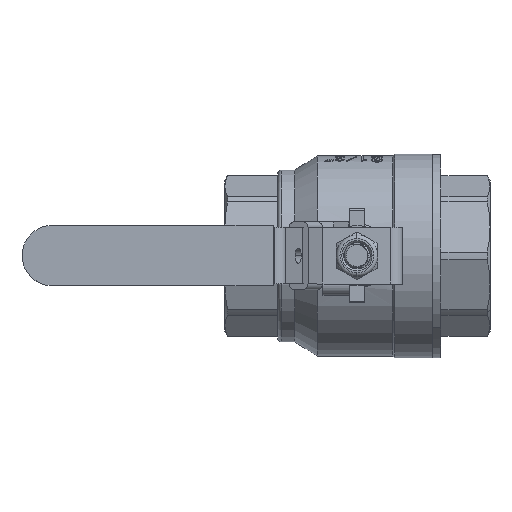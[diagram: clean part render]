
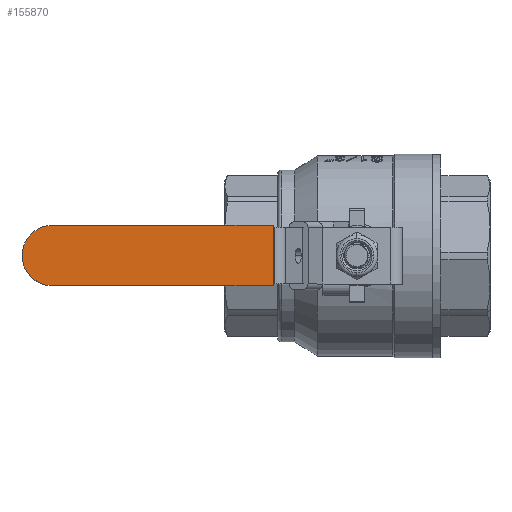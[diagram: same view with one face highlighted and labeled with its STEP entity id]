
A CAD part, top view. The second image highlights one B-rep face of the part: STEP entity #155870.
In plain terms, the highlighted planar face has unit normal (0, 0, 1).
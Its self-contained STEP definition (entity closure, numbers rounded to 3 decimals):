
#153046 = PLANE('',#153047);
#153047 = AXIS2_PLACEMENT_3D('',#153048,#153049,#153050);
#153048 = CARTESIAN_POINT('',(-44.404,16.,126.3));
#153049 = DIRECTION('',(-1.,0.,0.));
#153050 = DIRECTION('',(0.,0.,1.));
#155646 = VERTEX_POINT('',#155647);
#155647 = CARTESIAN_POINT('',(-44.404,-16.,126.3));
#155663 = PLANE('',#155664);
#155664 = AXIS2_PLACEMENT_3D('',#155665,#155666,#155667);
#155665 = CARTESIAN_POINT('',(0.,-16.,85.3)
  );
#155666 = DIRECTION('',(0.,1.,0.));
#155667 = DIRECTION('',(-1.,0.,0.));
#155704 = VERTEX_POINT('',#155705);
#155705 = CARTESIAN_POINT('',(-44.404,16.,126.3));
#155719 = PLANE('',#155720);
#155720 = AXIS2_PLACEMENT_3D('',#155721,#155722,#155723);
#155721 = CARTESIAN_POINT('',(0.,16.,85.3));
#155722 = DIRECTION('',(0.,1.,0.));
#155723 = DIRECTION('',(-1.,0.,0.));
#155731 = EDGE_CURVE('',#155704,#155646,#155732,.T.);
#155732 = SURFACE_CURVE('',#155733,(#155737,#155744),.PCURVE_S1.);
#155733 = LINE('',#155734,#155735);
#155734 = CARTESIAN_POINT('',(-44.404,16.,126.3));
#155735 = VECTOR('',#155736,1.);
#155736 = DIRECTION('',(0.,-1.,0.));
#155737 = PCURVE('',#153046,#155738);
#155738 = DEFINITIONAL_REPRESENTATION('',(#155739),#155743);
#155739 = LINE('',#155740,#155741);
#155740 = CARTESIAN_POINT('',(0.,0.));
#155741 = VECTOR('',#155742,1.);
#155742 = DIRECTION('',(0.,-1.));
#155743 = ( GEOMETRIC_REPRESENTATION_CONTEXT(2) 
PARAMETRIC_REPRESENTATION_CONTEXT() REPRESENTATION_CONTEXT('2D SPACE',''
  ) );
#155744 = PCURVE('',#155745,#155750);
#155745 = PLANE('',#155746);
#155746 = AXIS2_PLACEMENT_3D('',#155747,#155748,#155749);
#155747 = CARTESIAN_POINT('',(-44.404,16.,126.3));
#155748 = DIRECTION('',(0.,0.,-1.));
#155749 = DIRECTION('',(0.,-1.,0.));
#155750 = DEFINITIONAL_REPRESENTATION('',(#155751),#155755);
#155751 = LINE('',#155752,#155753);
#155752 = CARTESIAN_POINT('',(-0.,0.));
#155753 = VECTOR('',#155754,1.);
#155754 = DIRECTION('',(1.,0.));
#155755 = ( GEOMETRIC_REPRESENTATION_CONTEXT(2) 
PARAMETRIC_REPRESENTATION_CONTEXT() REPRESENTATION_CONTEXT('2D SPACE',''
  ) );
#155804 = CYLINDRICAL_SURFACE('',#155805,16.);
#155805 = AXIS2_PLACEMENT_3D('',#155806,#155807,#155808);
#155806 = CARTESIAN_POINT('',(-161.5,0.,126.3)
  );
#155807 = DIRECTION('',(0.,0.,1.));
#155808 = DIRECTION('',(0.,1.,0.));
#155837 = CYLINDRICAL_SURFACE('',#155838,16.);
#155838 = AXIS2_PLACEMENT_3D('',#155839,#155840,#155841);
#155839 = CARTESIAN_POINT('',(-161.5,0.,85.3)
  );
#155840 = DIRECTION('',(0.,0.,-1.));
#155841 = DIRECTION('',(0.,-1.,0.));
#155870 = ADVANCED_FACE('',(#155871),#155745,.F.);
#155871 = FACE_BOUND('',#155872,.T.);
#155872 = EDGE_LOOP('',(#155873,#155903,#155931,#155952,#155953));
#155873 = ORIENTED_EDGE('',*,*,#155874,.T.);
#155874 = EDGE_CURVE('',#155875,#155877,#155879,.T.);
#155875 = VERTEX_POINT('',#155876);
#155876 = CARTESIAN_POINT('',(-161.5,16.,126.3));
#155877 = VERTEX_POINT('',#155878);
#155878 = CARTESIAN_POINT('',(-177.5,0.,126.3)
  );
#155879 = SURFACE_CURVE('',#155880,(#155885,#155896),.PCURVE_S1.);
#155880 = CIRCLE('',#155881,16.);
#155881 = AXIS2_PLACEMENT_3D('',#155882,#155883,#155884);
#155882 = CARTESIAN_POINT('',(-161.5,0.,126.3)
  );
#155883 = DIRECTION('',(0.,0.,1.));
#155884 = DIRECTION('',(0.,-1.,0.));
#155885 = PCURVE('',#155745,#155886);
#155886 = DEFINITIONAL_REPRESENTATION('',(#155887),#155895);
#155887 = ( BOUNDED_CURVE() B_SPLINE_CURVE(2,(#155888,#155889,#155890,
    #155891,#155892,#155893,#155894),.UNSPECIFIED.,.T.,.F.) 
B_SPLINE_CURVE_WITH_KNOTS((1,2,2,2,2,1),(-2.094,0.,
    2.094,4.189,6.283,8.378),
.UNSPECIFIED.) CURVE() GEOMETRIC_REPRESENTATION_ITEM() 
RATIONAL_B_SPLINE_CURVE((1.,0.5,1.,0.5,1.,0.5,1.)) REPRESENTATION_ITEM(
  '') );
#155888 = CARTESIAN_POINT('',(32.,117.096));
#155889 = CARTESIAN_POINT('',(32.,89.383));
#155890 = CARTESIAN_POINT('',(8.,103.239));
#155891 = CARTESIAN_POINT('',(-16.,117.096));
#155892 = CARTESIAN_POINT('',(8.,130.952));
#155893 = CARTESIAN_POINT('',(32.,144.808));
#155894 = CARTESIAN_POINT('',(32.,117.096));
#155895 = ( GEOMETRIC_REPRESENTATION_CONTEXT(2) 
PARAMETRIC_REPRESENTATION_CONTEXT() REPRESENTATION_CONTEXT('2D SPACE',''
  ) );
#155896 = PCURVE('',#155837,#155897);
#155897 = DEFINITIONAL_REPRESENTATION('',(#155898),#155902);
#155898 = LINE('',#155899,#155900);
#155899 = CARTESIAN_POINT('',(6.283,-41.));
#155900 = VECTOR('',#155901,1.);
#155901 = DIRECTION('',(-1.,0.));
#155902 = ( GEOMETRIC_REPRESENTATION_CONTEXT(2) 
PARAMETRIC_REPRESENTATION_CONTEXT() REPRESENTATION_CONTEXT('2D SPACE',''
  ) );
#155903 = ORIENTED_EDGE('',*,*,#155904,.T.);
#155904 = EDGE_CURVE('',#155877,#155905,#155907,.T.);
#155905 = VERTEX_POINT('',#155906);
#155906 = CARTESIAN_POINT('',(-161.5,-16.,126.3));
#155907 = SURFACE_CURVE('',#155908,(#155913,#155924),.PCURVE_S1.);
#155908 = CIRCLE('',#155909,16.);
#155909 = AXIS2_PLACEMENT_3D('',#155910,#155911,#155912);
#155910 = CARTESIAN_POINT('',(-161.5,0.,126.3)
  );
#155911 = DIRECTION('',(0.,0.,1.));
#155912 = DIRECTION('',(0.,-1.,0.));
#155913 = PCURVE('',#155745,#155914);
#155914 = DEFINITIONAL_REPRESENTATION('',(#155915),#155923);
#155915 = ( BOUNDED_CURVE() B_SPLINE_CURVE(2,(#155916,#155917,#155918,
    #155919,#155920,#155921,#155922),.UNSPECIFIED.,.T.,.F.) 
B_SPLINE_CURVE_WITH_KNOTS((1,2,2,2,2,1),(-2.094,0.,
    2.094,4.189,6.283,8.378),
.UNSPECIFIED.) CURVE() GEOMETRIC_REPRESENTATION_ITEM() 
RATIONAL_B_SPLINE_CURVE((1.,0.5,1.,0.5,1.,0.5,1.)) REPRESENTATION_ITEM(
  '') );
#155916 = CARTESIAN_POINT('',(32.,117.096));
#155917 = CARTESIAN_POINT('',(32.,89.383));
#155918 = CARTESIAN_POINT('',(8.,103.239));
#155919 = CARTESIAN_POINT('',(-16.,117.096));
#155920 = CARTESIAN_POINT('',(8.,130.952));
#155921 = CARTESIAN_POINT('',(32.,144.808));
#155922 = CARTESIAN_POINT('',(32.,117.096));
#155923 = ( GEOMETRIC_REPRESENTATION_CONTEXT(2) 
PARAMETRIC_REPRESENTATION_CONTEXT() REPRESENTATION_CONTEXT('2D SPACE',''
  ) );
#155924 = PCURVE('',#155804,#155925);
#155925 = DEFINITIONAL_REPRESENTATION('',(#155926),#155930);
#155926 = LINE('',#155927,#155928);
#155927 = CARTESIAN_POINT('',(-3.142,0.));
#155928 = VECTOR('',#155929,1.);
#155929 = DIRECTION('',(1.,0.));
#155930 = ( GEOMETRIC_REPRESENTATION_CONTEXT(2) 
PARAMETRIC_REPRESENTATION_CONTEXT() REPRESENTATION_CONTEXT('2D SPACE',''
  ) );
#155931 = ORIENTED_EDGE('',*,*,#155932,.T.);
#155932 = EDGE_CURVE('',#155905,#155646,#155933,.T.);
#155933 = SURFACE_CURVE('',#155934,(#155938,#155945),.PCURVE_S1.);
#155934 = LINE('',#155935,#155936);
#155935 = CARTESIAN_POINT('',(-44.404,-16.,126.3));
#155936 = VECTOR('',#155937,1.);
#155937 = DIRECTION('',(1.,0.,0.));
#155938 = PCURVE('',#155745,#155939);
#155939 = DEFINITIONAL_REPRESENTATION('',(#155940),#155944);
#155940 = LINE('',#155941,#155942);
#155941 = CARTESIAN_POINT('',(32.,0.));
#155942 = VECTOR('',#155943,1.);
#155943 = DIRECTION('',(0.,-1.));
#155944 = ( GEOMETRIC_REPRESENTATION_CONTEXT(2) 
PARAMETRIC_REPRESENTATION_CONTEXT() REPRESENTATION_CONTEXT('2D SPACE',''
  ) );
#155945 = PCURVE('',#155663,#155946);
#155946 = DEFINITIONAL_REPRESENTATION('',(#155947),#155951);
#155947 = LINE('',#155948,#155949);
#155948 = CARTESIAN_POINT('',(44.404,41.));
#155949 = VECTOR('',#155950,1.);
#155950 = DIRECTION('',(-1.,0.));
#155951 = ( GEOMETRIC_REPRESENTATION_CONTEXT(2) 
PARAMETRIC_REPRESENTATION_CONTEXT() REPRESENTATION_CONTEXT('2D SPACE',''
  ) );
#155952 = ORIENTED_EDGE('',*,*,#155731,.F.);
#155953 = ORIENTED_EDGE('',*,*,#155954,.F.);
#155954 = EDGE_CURVE('',#155875,#155704,#155955,.T.);
#155955 = SURFACE_CURVE('',#155956,(#155960,#155967),.PCURVE_S1.);
#155956 = LINE('',#155957,#155958);
#155957 = CARTESIAN_POINT('',(-44.404,16.,126.3));
#155958 = VECTOR('',#155959,1.);
#155959 = DIRECTION('',(1.,0.,0.));
#155960 = PCURVE('',#155745,#155961);
#155961 = DEFINITIONAL_REPRESENTATION('',(#155962),#155966);
#155962 = LINE('',#155963,#155964);
#155963 = CARTESIAN_POINT('',(-0.,0.));
#155964 = VECTOR('',#155965,1.);
#155965 = DIRECTION('',(0.,-1.));
#155966 = ( GEOMETRIC_REPRESENTATION_CONTEXT(2) 
PARAMETRIC_REPRESENTATION_CONTEXT() REPRESENTATION_CONTEXT('2D SPACE',''
  ) );
#155967 = PCURVE('',#155719,#155968);
#155968 = DEFINITIONAL_REPRESENTATION('',(#155969),#155973);
#155969 = LINE('',#155970,#155971);
#155970 = CARTESIAN_POINT('',(44.404,41.));
#155971 = VECTOR('',#155972,1.);
#155972 = DIRECTION('',(-1.,0.));
#155973 = ( GEOMETRIC_REPRESENTATION_CONTEXT(2) 
PARAMETRIC_REPRESENTATION_CONTEXT() REPRESENTATION_CONTEXT('2D SPACE',''
  ) );
